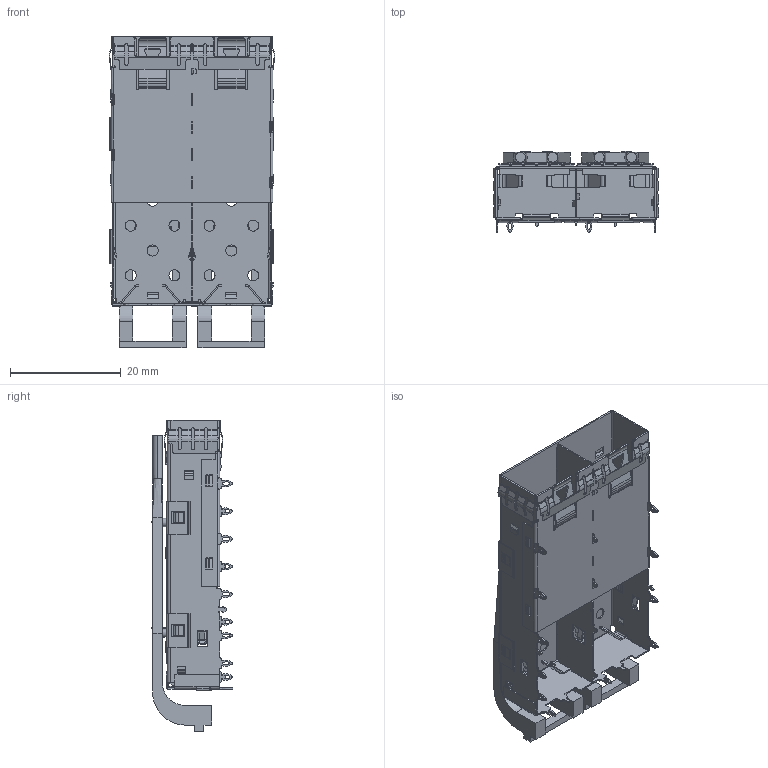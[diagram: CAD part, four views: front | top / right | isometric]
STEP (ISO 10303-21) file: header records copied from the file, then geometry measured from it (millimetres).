
FILE_DESCRIPTION (( 'STEP AP203' ), '1' );
FILE_NAME ('8951-A2PP1A-1110615.STEP', '2022-06-15T03:35:31', ( '' ), ( '' ), 'SwSTEP 2.0', 'SolidWorks 2019', '' );
FILE_SCHEMA (( 'CONFIG_CONTROL_DESIGN' ));
Length unit declared in the file: millimetre
Products named in the file (2): 8951-A2PP1A-1110615
Assembly tree (1 placements, depth 2):
  8951-A2PP1A-1110615
    8951-A2PP1A-1110615
Bounding box: 29.95 x 14.7 x 56.43 mm (x, y, z)
Volume: 2458.9 mm3; surface area: 11399.2 mm2
Topology: 2 solids, 2 shells, 2339 faces, 6719 edges, 4294 vertices
Faces by surface type: plane 1239, cylinder 1046, bspline 54
Entity records: 79865 total; most frequent: CARTESIAN_POINT 18718, ORIENTED_EDGE 13438, DIRECTION 12150, EDGE_CURVE 6719, VERTEX_POINT 4294, AXIS2_PLACEMENT_3D 4205, LINE 3740, VECTOR 3740
